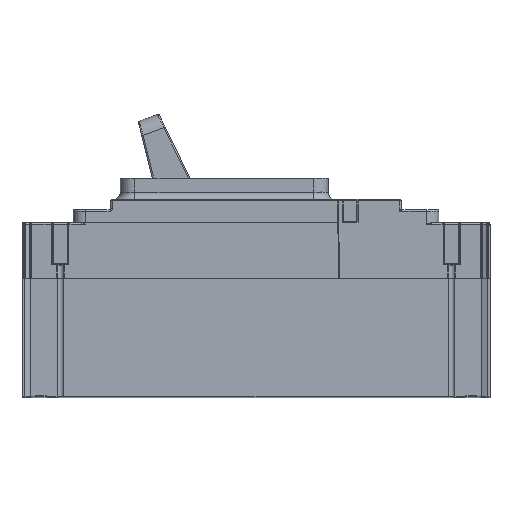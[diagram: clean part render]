
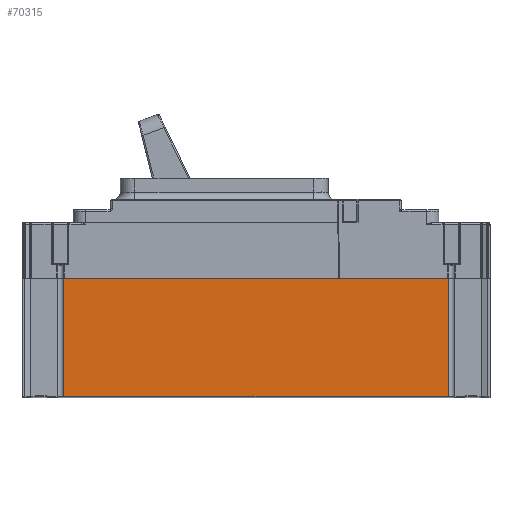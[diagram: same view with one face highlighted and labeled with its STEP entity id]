
A CAD part, top view. The second image highlights one B-rep face of the part: STEP entity #70315.
In plain terms, the highlighted planar face has unit normal (0, 0, 1).
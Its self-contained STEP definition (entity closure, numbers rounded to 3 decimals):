
#59541=DIRECTION('',(1.,0.,0.));
#59542=VECTOR('',#59541,262.735);
#59543=CARTESIAN_POINT('',(-131.368,-81.,175.));
#59544=LINE('',#59543,#59542);
#60008=DIRECTION('',(-1.,0.,0.));
#60009=VECTOR('',#60008,262.735);
#60010=CARTESIAN_POINT('',(131.368,0.,175.));
#60011=LINE('',#60010,#60009);
#61540=DIRECTION('',(0.,1.,0.));
#61541=VECTOR('',#61540,81.);
#61542=CARTESIAN_POINT('',(131.368,-81.,175.));
#61543=LINE('',#61542,#61541);
#61552=DIRECTION('',(0.,-1.,0.));
#61553=VECTOR('',#61552,81.);
#61554=CARTESIAN_POINT('',(-131.368,0.,175.));
#61555=LINE('',#61554,#61553);
#66486=CARTESIAN_POINT('',(131.368,0.,175.));
#66487=VERTEX_POINT('',#66486);
#66488=CARTESIAN_POINT('',(-131.368,0.,175.));
#66489=VERTEX_POINT('',#66488);
#67104=CARTESIAN_POINT('',(-131.368,-81.,175.));
#67105=VERTEX_POINT('',#67104);
#67106=CARTESIAN_POINT('',(131.368,-81.,175.));
#67107=VERTEX_POINT('',#67106);
#70303=CARTESIAN_POINT('',(0.,0.,175.));
#70304=DIRECTION('',(0.,0.,1.));
#70305=DIRECTION('',(1.,0.,0.));
#70306=AXIS2_PLACEMENT_3D('',#70303,#70304,#70305);
#70307=PLANE('',#70306);
#70309=ORIENTED_EDGE('',*,*,#70308,.F.);
#70310=ORIENTED_EDGE('',*,*,#68544,.F.);
#70311=ORIENTED_EDGE('',*,*,#70296,.F.);
#70312=ORIENTED_EDGE('',*,*,#68145,.F.);
#70313=EDGE_LOOP('',(#70309,#70310,#70311,#70312));
#70314=FACE_OUTER_BOUND('',#70313,.F.);
#70315=ADVANCED_FACE('',(#70314),#70307,.T.);
#68145=EDGE_CURVE('',#67105,#67107,#59544,.T.);
#68544=EDGE_CURVE('',#66487,#66489,#60011,.T.);
#70296=EDGE_CURVE('',#67107,#66487,#61543,.T.);
#70308=EDGE_CURVE('',#66489,#67105,#61555,.T.);
